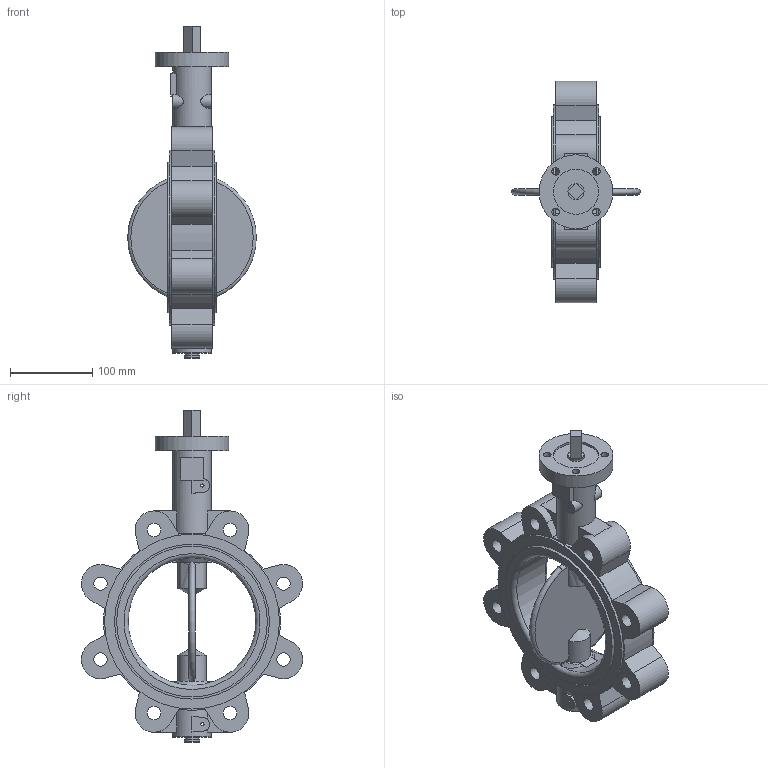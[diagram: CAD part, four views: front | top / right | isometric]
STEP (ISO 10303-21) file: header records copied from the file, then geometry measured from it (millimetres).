
FILE_DESCRIPTION((' '),'2;1');
FILE_NAME('N:\Technical Support\Private\Jomar Valve CAD\Actuation\Butterfly\600-06DS_BFusionCopy.stp','2017-06-05T15:43:15',(' '),(' '),' ','ACIS',' ');
FILE_SCHEMA(('CONFIG_CONTROL_DESIGN'));
Length unit declared in the file: inch
Products named in the file (7): N:\Technical Support\Private\Jomar Valve CAD\Actuation\Butterfly\600-06DS_BFusionCopy.stp; Body1; Body2; Body3; Body4; Body5; Body6
Assembly tree (6 placements, depth 2):
  N:\Technical Support\Private\Jomar Valve CAD\Actuation\Butterfly\600-06DS_BFusionCopy.stp
    Body1
    Body2
    Body3
    Body4
    Body5
    Body6
Bounding box: 156.87 x 269.83 x 404.83 mm (x, y, z)
Volume: 2073696 mm3; surface area: 370407.2 mm2
Topology: 6 solids, 6 shells, 163 faces, 427 edges, 285 vertices
Faces by surface type: plane 77, cylinder 59, bspline 17, torus 5, cone 5
Full cylindrical faces by diameter (mm): 3.81 x2, 9.22 x4, 15.875 x1, 16.256 x8, 18.796 x1, 19.799 x1, 47.244 x2, 55 x1, 90 x1, 155.575 x1, 183.833 x2, 188.913 x2, 213.36 x2
Entity records: 6089 total; most frequent: CARTESIAN_POINT 1308, DIRECTION 799, ORIENTED_EDGE 746, EDGE_CURVE 373, AXIS2_PLACEMENT_3D 312, VERTEX_POINT 265, EDGE_LOOP 238, VECTOR 175
